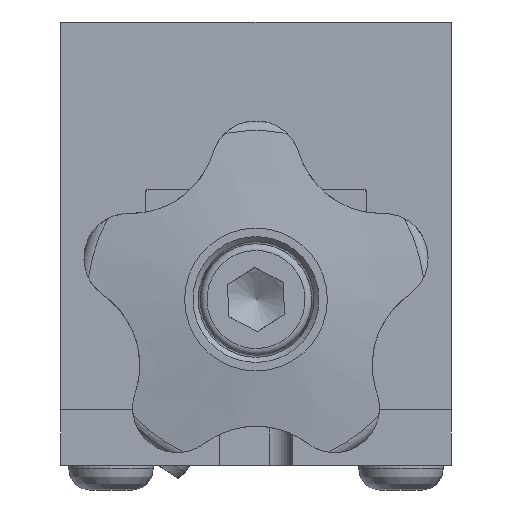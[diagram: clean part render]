
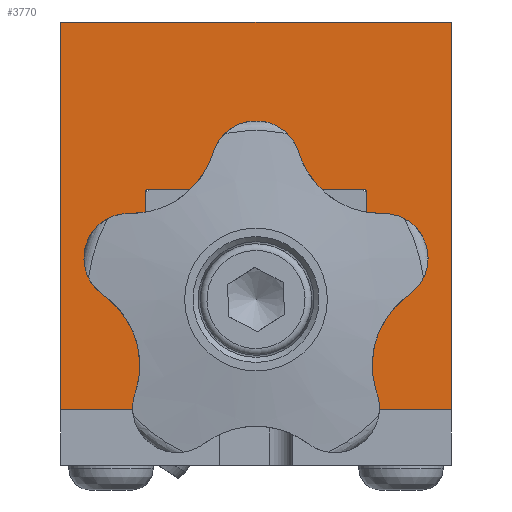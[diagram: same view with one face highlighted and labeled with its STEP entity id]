
A CAD part, front view. The second image highlights one B-rep face of the part: STEP entity #3770.
In plain terms, the highlighted planar face has unit normal (0, -1, 0).
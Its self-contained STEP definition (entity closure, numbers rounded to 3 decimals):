
#276=PLANE('',#4255);
#470=FACE_OUTER_BOUND('',#702,.T.);
#702=EDGE_LOOP('',(#2708,#2709,#2710,#2711,#2712,#2713,#2714,#2715,#2716,
#2717));
#944=LINE('',#5787,#1221);
#948=LINE('',#5807,#1225);
#963=LINE('',#5876,#1240);
#971=LINE('',#5892,#1248);
#973=LINE('',#5896,#1250);
#974=LINE('',#5898,#1251);
#975=LINE('',#5900,#1252);
#976=LINE('',#5901,#1253);
#1221=VECTOR('',#4660,10.);
#1225=VECTOR('',#4680,10.);
#1240=VECTOR('',#4761,10.);
#1248=VECTOR('',#4773,10.);
#1250=VECTOR('',#4777,10.);
#1251=VECTOR('',#4778,10.);
#1252=VECTOR('',#4779,10.);
#1253=VECTOR('',#4780,10.);
#1495=CIRCLE('',#4210,0.2);
#1501=CIRCLE('',#4218,0.2);
#1677=VERTEX_POINT('',#5777);
#1678=VERTEX_POINT('',#5779);
#1680=VERTEX_POINT('',#5785);
#1686=VERTEX_POINT('',#5799);
#1688=VERTEX_POINT('',#5805);
#1709=VERTEX_POINT('',#5875);
#1715=VERTEX_POINT('',#5891);
#1716=VERTEX_POINT('',#5895);
#1717=VERTEX_POINT('',#5897);
#1718=VERTEX_POINT('',#5899);
#2051=EDGE_CURVE('',#1677,#1678,#1495,.T.);
#2055=EDGE_CURVE('',#1677,#1680,#944,.T.);
#2062=EDGE_CURVE('',#1686,#1680,#1501,.T.);
#2065=EDGE_CURVE('',#1686,#1688,#948,.T.);
#2096=EDGE_CURVE('',#1709,#1678,#963,.T.);
#2104=EDGE_CURVE('',#1715,#1709,#971,.T.);
#2106=EDGE_CURVE('',#1688,#1716,#973,.T.);
#2107=EDGE_CURVE('',#1716,#1717,#974,.T.);
#2108=EDGE_CURVE('',#1717,#1718,#975,.T.);
#2109=EDGE_CURVE('',#1718,#1715,#976,.T.);
#2708=ORIENTED_EDGE('',*,*,#2065,.T.);
#2709=ORIENTED_EDGE('',*,*,#2106,.T.);
#2710=ORIENTED_EDGE('',*,*,#2107,.T.);
#2711=ORIENTED_EDGE('',*,*,#2108,.T.);
#2712=ORIENTED_EDGE('',*,*,#2109,.T.);
#2713=ORIENTED_EDGE('',*,*,#2104,.T.);
#2714=ORIENTED_EDGE('',*,*,#2096,.T.);
#2715=ORIENTED_EDGE('',*,*,#2051,.F.);
#2716=ORIENTED_EDGE('',*,*,#2055,.T.);
#2717=ORIENTED_EDGE('',*,*,#2062,.F.);
#3770=ADVANCED_FACE('',(#470),#276,.T.);
#4210=AXIS2_PLACEMENT_3D('',#5780,#4653,#4654);
#4218=AXIS2_PLACEMENT_3D('',#5801,#4674,#4675);
#4255=AXIS2_PLACEMENT_3D('',#5894,#4775,#4776);
#4653=DIRECTION('center_axis',(0.,-1.,0.));
#4654=DIRECTION('ref_axis',(-0.707,0.,0.707));
#4660=DIRECTION('',(1.,0.,0.));
#4674=DIRECTION('center_axis',(0.,-1.,0.));
#4675=DIRECTION('ref_axis',(0.707,0.,0.707));
#4680=DIRECTION('',(0.,0.,-1.));
#4761=DIRECTION('',(0.,0.,1.));
#4773=DIRECTION('',(1.,0.,0.));
#4775=DIRECTION('center_axis',(0.,-1.,0.));
#4776=DIRECTION('ref_axis',(0.,0.,-1.));
#4777=DIRECTION('',(1.,0.,0.));
#4778=DIRECTION('',(0.,0.,1.));
#4779=DIRECTION('',(-1.,0.,0.));
#4780=DIRECTION('',(0.,0.,-1.));
#5777=CARTESIAN_POINT('',(-9.675,-22.5,2.375));
#5779=CARTESIAN_POINT('',(-9.875,-22.5,2.175));
#5780=CARTESIAN_POINT('Origin',(-9.675,-22.5,2.175));
#5785=CARTESIAN_POINT('',(9.675,-22.5,2.375));
#5787=CARTESIAN_POINT('',(4.938,-22.5,2.375));
#5799=CARTESIAN_POINT('',(9.875,-22.5,2.175));
#5801=CARTESIAN_POINT('Origin',(9.675,-22.5,2.175));
#5805=CARTESIAN_POINT('',(9.875,-22.5,-17.375));
#5807=CARTESIAN_POINT('',(9.875,-22.5,-8.688));
#5875=CARTESIAN_POINT('',(-9.875,-22.5,-17.375));
#5876=CARTESIAN_POINT('',(-9.875,-22.5,1.188));
#5891=CARTESIAN_POINT('',(-17.5,-22.5,-17.375));
#5892=CARTESIAN_POINT('',(-17.5,-22.5,-17.375));
#5894=CARTESIAN_POINT('Origin',(0.,-22.5,0.));
#5895=CARTESIAN_POINT('',(17.5,-22.5,-17.375));
#5896=CARTESIAN_POINT('',(-17.5,-22.5,-17.375));
#5897=CARTESIAN_POINT('',(17.5,-22.5,17.375));
#5898=CARTESIAN_POINT('',(17.5,-22.5,-17.375));
#5899=CARTESIAN_POINT('',(-17.5,-22.5,17.375));
#5900=CARTESIAN_POINT('',(17.5,-22.5,17.375));
#5901=CARTESIAN_POINT('',(-17.5,-22.5,17.375));
